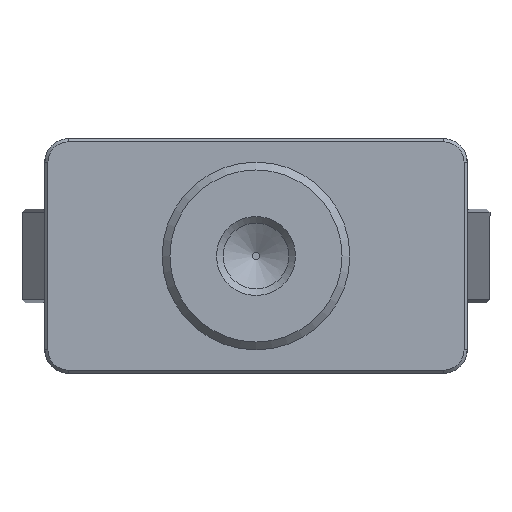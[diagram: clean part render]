
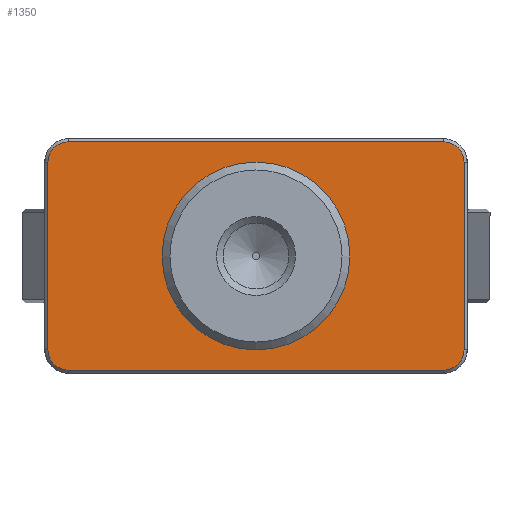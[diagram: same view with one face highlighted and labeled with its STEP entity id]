
A CAD part, front view. The second image highlights one B-rep face of the part: STEP entity #1350.
In plain terms, the highlighted planar face has unit normal (0, -1, 0).
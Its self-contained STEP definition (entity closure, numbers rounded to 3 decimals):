
#237=LINE('',#11149,#619);
#238=LINE('',#11153,#620);
#239=LINE('',#11157,#621);
#240=LINE('',#11161,#622);
#619=VECTOR('',#6653,1.);
#620=VECTOR('',#6656,1.);
#621=VECTOR('',#6659,1.);
#622=VECTOR('',#6662,1.);
#1094=PLANE('',#5700);
#1350=ADVANCED_FACE('',(#1903,#1724),#1094,.T.);
#1724=FACE_BOUND('',#2291,.T.);
#1903=FACE_OUTER_BOUND('',#2290,.T.);
#2290=EDGE_LOOP('',(#3087,#3088,#3089,#3090,#3091,#3092,#3093,#3094));
#2291=EDGE_LOOP('',(#3095));
#3087=ORIENTED_EDGE('',*,*,#4809,.T.);
#3088=ORIENTED_EDGE('',*,*,#4810,.T.);
#3089=ORIENTED_EDGE('',*,*,#4811,.T.);
#3090=ORIENTED_EDGE('',*,*,#4812,.T.);
#3091=ORIENTED_EDGE('',*,*,#4813,.T.);
#3092=ORIENTED_EDGE('',*,*,#4814,.T.);
#3093=ORIENTED_EDGE('',*,*,#4815,.T.);
#3094=ORIENTED_EDGE('',*,*,#4816,.T.);
#3095=ORIENTED_EDGE('',*,*,#4694,.F.);
#4162=VERTEX_POINT('',#10742);
#4254=VERTEX_POINT('',#11147);
#4255=VERTEX_POINT('',#11148);
#4256=VERTEX_POINT('',#11150);
#4257=VERTEX_POINT('',#11152);
#4258=VERTEX_POINT('',#11154);
#4259=VERTEX_POINT('',#11156);
#4260=VERTEX_POINT('',#11158);
#4261=VERTEX_POINT('',#11160);
#4694=EDGE_CURVE('',#4162,#4162,#5281,.T.);
#4809=EDGE_CURVE('',#4254,#4255,#5334,.T.);
#4810=EDGE_CURVE('',#4255,#4256,#237,.T.);
#4811=EDGE_CURVE('',#4256,#4257,#5335,.T.);
#4812=EDGE_CURVE('',#4257,#4258,#238,.T.);
#4813=EDGE_CURVE('',#4258,#4259,#5336,.T.);
#4814=EDGE_CURVE('',#4259,#4260,#239,.T.);
#4815=EDGE_CURVE('',#4260,#4261,#5337,.T.);
#4816=EDGE_CURVE('',#4261,#4254,#240,.T.);
#5281=CIRCLE('',#5609,6.);
#5334=CIRCLE('',#5696,1.3);
#5335=CIRCLE('',#5697,1.3);
#5336=CIRCLE('',#5698,1.3);
#5337=CIRCLE('',#5699,1.3);
#5609=AXIS2_PLACEMENT_3D('',#10741,#6423,#6424);
#5696=AXIS2_PLACEMENT_3D('',#11146,#6651,#6652);
#5697=AXIS2_PLACEMENT_3D('',#11151,#6654,#6655);
#5698=AXIS2_PLACEMENT_3D('',#11155,#6657,#6658);
#5699=AXIS2_PLACEMENT_3D('',#11159,#6660,#6661);
#5700=AXIS2_PLACEMENT_3D('',#11162,#6663,#6664);
#6423=DIRECTION('',(0.,-1.,0.));
#6424=DIRECTION('',(0.,0.,-1.));
#6651=DIRECTION('',(0.,-1.,0.));
#6652=DIRECTION('',(0.,0.,-1.));
#6653=DIRECTION('',(0.,0.,-1.));
#6654=DIRECTION('',(0.,-1.,0.));
#6655=DIRECTION('',(0.,0.,-1.));
#6656=DIRECTION('',(1.,0.,0.));
#6657=DIRECTION('',(0.,-1.,0.));
#6658=DIRECTION('',(0.,0.,-1.));
#6659=DIRECTION('',(0.,0.,1.));
#6660=DIRECTION('',(0.,-1.,0.));
#6661=DIRECTION('',(0.,0.,-1.));
#6662=DIRECTION('',(-1.,0.,0.));
#6663=DIRECTION('',(0.,-1.,0.));
#6664=DIRECTION('',(0.,0.,-1.));
#10741=CARTESIAN_POINT('',(-11.588,-23.942,74.9));
#10742=CARTESIAN_POINT('',(-11.588,-23.942,68.9));
#11146=CARTESIAN_POINT('',(-23.588,-23.942,80.9));
#11147=CARTESIAN_POINT('',(-23.588,-23.942,82.2));
#11148=CARTESIAN_POINT('',(-24.888,-23.942,80.9));
#11149=CARTESIAN_POINT('',(-24.888,-23.942,68.9));
#11150=CARTESIAN_POINT('',(-24.888,-23.942,68.9));
#11151=CARTESIAN_POINT('',(-23.588,-23.942,68.9));
#11152=CARTESIAN_POINT('',(-23.588,-23.942,67.6));
#11153=CARTESIAN_POINT('',(0.412,-23.942,67.6));
#11154=CARTESIAN_POINT('',(0.412,-23.942,67.6));
#11155=CARTESIAN_POINT('',(0.412,-23.942,68.9));
#11156=CARTESIAN_POINT('',(1.712,-23.942,68.9));
#11157=CARTESIAN_POINT('',(1.712,-23.942,80.9));
#11158=CARTESIAN_POINT('',(1.712,-23.942,80.9));
#11159=CARTESIAN_POINT('',(0.412,-23.942,80.9));
#11160=CARTESIAN_POINT('',(0.412,-23.942,82.2));
#11161=CARTESIAN_POINT('',(0.912,-23.942,82.2));
#11162=CARTESIAN_POINT('',(0.912,-23.942,82.4));
